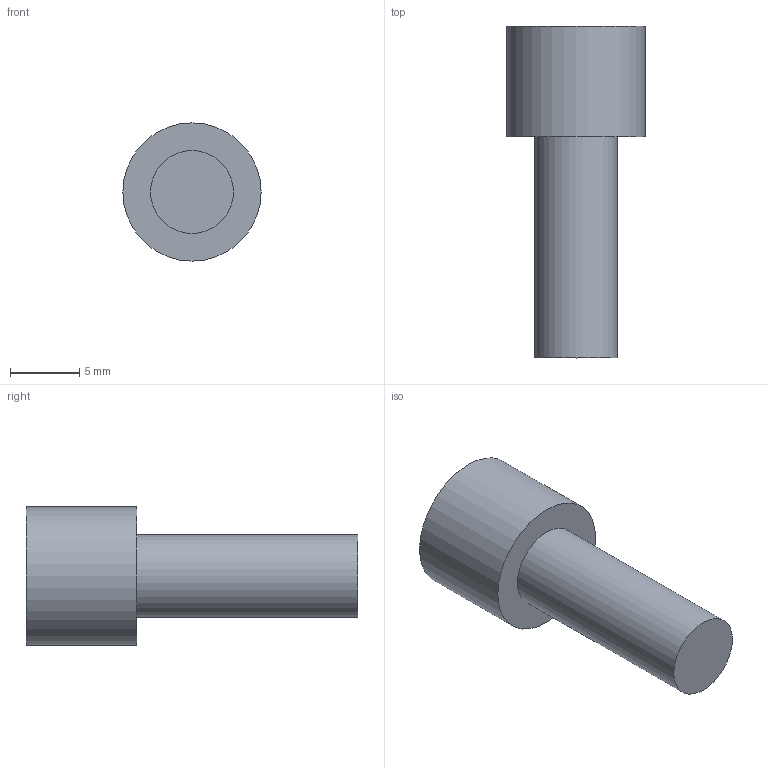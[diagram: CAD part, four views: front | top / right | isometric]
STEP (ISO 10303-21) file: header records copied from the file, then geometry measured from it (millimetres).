
FILE_DESCRIPTION(('Open CASCADE Model'),'2;1');
FILE_NAME('Open CASCADE Shape Model','2026-10-15T19:48:37',('Author'),( 'Open CASCADE'),'Open CASCADE STEP processor 7.9','Open CASCADE 7.9' ,'Unknown');
FILE_SCHEMA(('AUTOMOTIVE_DESIGN { 1 0 10303 214 1 1 1 1 }'));
Length unit declared in the file: millimetre
Products named in the file (1): Open CASCADE STEP translator 7.9 3
Bounding box: 10 x 24 x 10 mm (x, y, z)
Volume: 1080.7 mm3; surface area: 710 mm2
Topology: 1 solids, 1 shells, 5 faces, 6 edges, 4 vertices
Faces by surface type: plane 3, cylinder 2
Full cylindrical faces by diameter (mm): 6 x1, 10 x1
Entity records: 192 total; most frequent: DIRECTION 34, CARTESIAN_POINT 28, ORIENTED_EDGE 12, PCURVE 12, DEFINITIONAL_REPRESENTATION 12, AXIS2_PLACEMENT_3D 10, LINE 10, VECTOR 10
